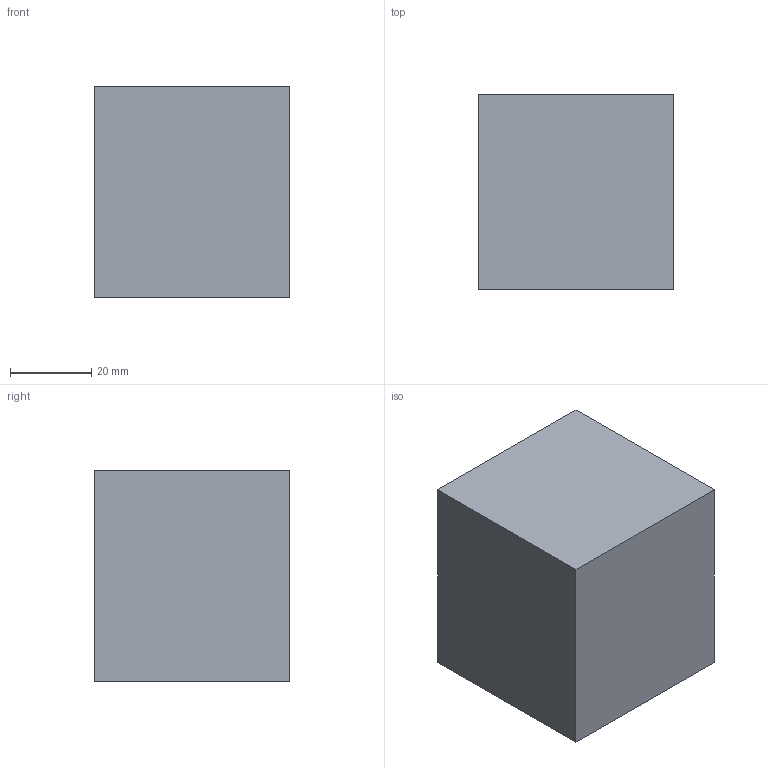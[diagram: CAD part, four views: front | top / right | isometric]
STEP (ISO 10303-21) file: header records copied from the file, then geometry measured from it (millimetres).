
FILE_DESCRIPTION(('Open CASCADE Model'),'2;1');
FILE_NAME('Open CASCADE Shape Model','2026-10-04T01:02:34',('Author'),( 'Open CASCADE'),'Open CASCADE STEP processor 8.0','Open CASCADE 8.0' ,'Unknown');
FILE_SCHEMA(('AUTOMOTIVE_DESIGN { 1 0 10303 214 1 1 1 1 }'));
Length unit declared in the file: millimetre
Products named in the file (1): Open CASCADE STEP translator 8.0 374
Bounding box: 48 x 48 x 52 mm (x, y, z)
Volume: 119808 mm3; surface area: 14592 mm2
Topology: 1 solids, 1 shells, 6 faces, 12 edges, 8 vertices
Faces by surface type: plane 6
Entity records: 322 total; most frequent: CARTESIAN_POINT 51, DIRECTION 50, LINE 36, VECTOR 36, ORIENTED_EDGE 24, PCURVE 24, DEFINITIONAL_REPRESENTATION 24, EDGE_CURVE 12
